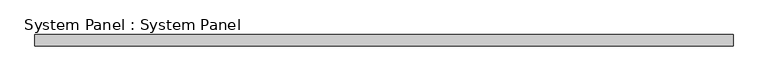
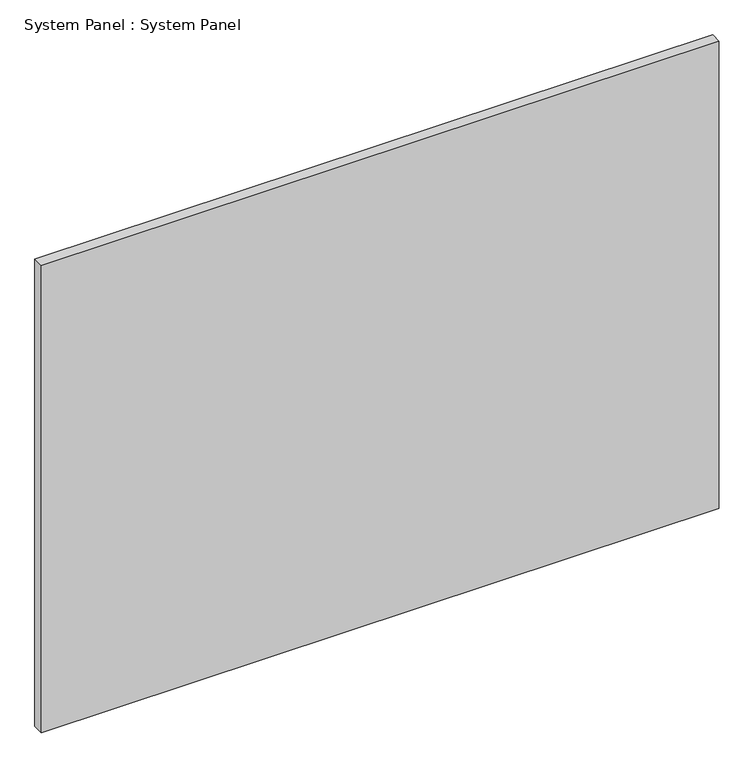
"""IFC4 building model written with IfcOpenShell, lengths in millimetres: plate geometry, System Panel : System Panel."""

from ifc_helpers import new_model, si_unit, origin, origin_with_axes, place, context, project, spatial, polyline, outline, extrude, source, transform, mapped, element, save


def system_panel_system_panel_79724349(model_context):
    return source(origin(), model_context, "Body", "SweptSolid", [
        extrude(outline(polyline([(771.525, 19.05), (-771.525, 19.05), (-771.525, 44.45), (771.525, 44.45), (771.525, 19.05)])), origin_with_axes(), (0.0, 0.0, 1.0), 1123.95),
    ])


if __name__ == "__main__":
    model = new_model("IFC4")
    model_context = context("Model", 3, world=origin())
    ifc_project = project(units=[si_unit("LENGTHUNIT", "METRE", prefix="MILLI")], contexts=[model_context])
    site = spatial("IfcSite", under=ifc_project)
    building = spatial("IfcBuilding", under=site)
    placement = place(None, origin())
    system_panel_system_panel_shape = system_panel_system_panel_79724349(model_context)
    element("IfcPlate", 1, ObjectType="System Panel : System Panel", at=placement, inside=building, context=model_context, shape_type="MappedRepresentation", body=[
        mapped(system_panel_system_panel_shape, transform((0.0, 0.0, 0.0), x_axis=(1.0, 0.0, 0.0), y_axis=(0.0, 1.0, 0.0), z_axis=(0.0, 0.0, 1.0))),
    ])
    save(model, "model.ifc")
